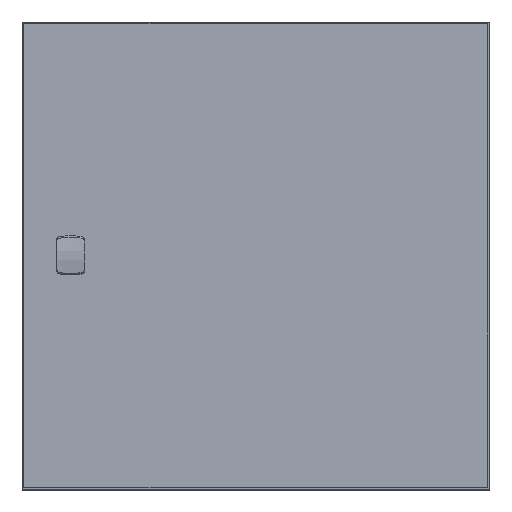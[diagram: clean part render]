
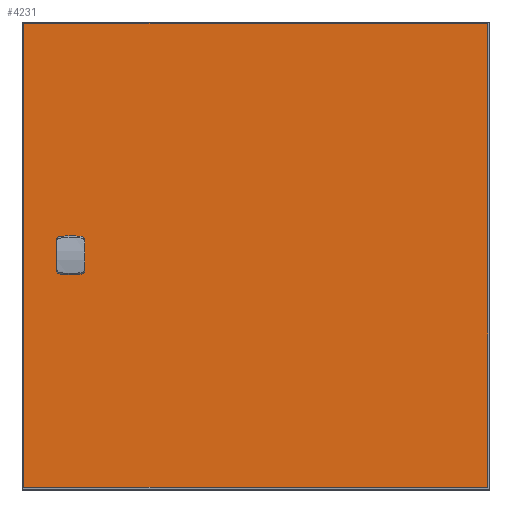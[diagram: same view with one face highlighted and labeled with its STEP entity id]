
A CAD part, top view. The second image highlights one B-rep face of the part: STEP entity #4231.
In plain terms, the highlighted planar face has unit normal (0, 0, 1).
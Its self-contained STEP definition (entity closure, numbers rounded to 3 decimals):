
#224=CIRCLE('',#5045,11.3);
#225=CIRCLE('',#5046,11.3);
#226=CIRCLE('',#5047,1.25);
#227=CIRCLE('',#5048,11.3);
#228=CIRCLE('',#5049,11.3);
#229=CIRCLE('',#5050,1.25);
#688=ORIENTED_EDGE('',*,*,#1656,.F.);
#689=ORIENTED_EDGE('',*,*,#1657,.F.);
#690=ORIENTED_EDGE('',*,*,#1658,.F.);
#691=ORIENTED_EDGE('',*,*,#1659,.F.);
#692=ORIENTED_EDGE('',*,*,#1660,.F.);
#693=ORIENTED_EDGE('',*,*,#1661,.F.);
#694=ORIENTED_EDGE('',*,*,#1662,.F.);
#695=ORIENTED_EDGE('',*,*,#1663,.F.);
#696=ORIENTED_EDGE('',*,*,#1664,.F.);
#697=ORIENTED_EDGE('',*,*,#1665,.F.);
#698=ORIENTED_EDGE('',*,*,#1666,.F.);
#699=ORIENTED_EDGE('',*,*,#1667,.F.);
#700=ORIENTED_EDGE('',*,*,#1668,.F.);
#701=ORIENTED_EDGE('',*,*,#1669,.F.);
#702=ORIENTED_EDGE('',*,*,#1670,.F.);
#703=ORIENTED_EDGE('',*,*,#1671,.F.);
#704=ORIENTED_EDGE('',*,*,#1672,.T.);
#705=ORIENTED_EDGE('',*,*,#1673,.F.);
#706=ORIENTED_EDGE('',*,*,#1674,.F.);
#707=ORIENTED_EDGE('',*,*,#1654,.T.);
#1654=EDGE_CURVE('',#2176,#2175,#2562,.T.);
#1656=EDGE_CURVE('',#2177,#2178,#224,.T.);
#1657=EDGE_CURVE('',#2179,#2177,#2564,.T.);
#1658=EDGE_CURVE('',#2180,#2179,#225,.T.);
#1659=EDGE_CURVE('',#2181,#2180,#2565,.T.);
#1660=EDGE_CURVE('',#2182,#2181,#2566,.T.);
#1661=EDGE_CURVE('',#2183,#2182,#226,.T.);
#1662=EDGE_CURVE('',#2184,#2183,#2567,.T.);
#1663=EDGE_CURVE('',#2185,#2184,#2568,.T.);
#1664=EDGE_CURVE('',#2186,#2185,#227,.T.);
#1665=EDGE_CURVE('',#2187,#2186,#2569,.T.);
#1666=EDGE_CURVE('',#2188,#2187,#228,.T.);
#1667=EDGE_CURVE('',#2189,#2188,#2570,.T.);
#1668=EDGE_CURVE('',#2190,#2189,#2571,.T.);
#1669=EDGE_CURVE('',#2191,#2190,#229,.T.);
#1670=EDGE_CURVE('',#2192,#2191,#2572,.T.);
#1671=EDGE_CURVE('',#2178,#2192,#2573,.T.);
#1672=EDGE_CURVE('',#2175,#2193,#2574,.T.);
#1673=EDGE_CURVE('',#2194,#2193,#2575,.T.);
#1674=EDGE_CURVE('',#2176,#2194,#2576,.T.);
#2175=VERTEX_POINT('',#7039);
#2176=VERTEX_POINT('',#7041);
#2177=VERTEX_POINT('',#7045);
#2178=VERTEX_POINT('',#7046);
#2179=VERTEX_POINT('',#7048);
#2180=VERTEX_POINT('',#7050);
#2181=VERTEX_POINT('',#7052);
#2182=VERTEX_POINT('',#7054);
#2183=VERTEX_POINT('',#7056);
#2184=VERTEX_POINT('',#7058);
#2185=VERTEX_POINT('',#7060);
#2186=VERTEX_POINT('',#7062);
#2187=VERTEX_POINT('',#7064);
#2188=VERTEX_POINT('',#7066);
#2189=VERTEX_POINT('',#7068);
#2190=VERTEX_POINT('',#7070);
#2191=VERTEX_POINT('',#7072);
#2192=VERTEX_POINT('',#7074);
#2193=VERTEX_POINT('',#7077);
#2194=VERTEX_POINT('',#7079);
#2562=LINE('',#7040,#2951);
#2564=LINE('',#7047,#2953);
#2565=LINE('',#7051,#2954);
#2566=LINE('',#7053,#2955);
#2567=LINE('',#7057,#2956);
#2568=LINE('',#7059,#2957);
#2569=LINE('',#7063,#2958);
#2570=LINE('',#7067,#2959);
#2571=LINE('',#7069,#2960);
#2572=LINE('',#7073,#2961);
#2573=LINE('',#7075,#2962);
#2574=LINE('',#7076,#2963);
#2575=LINE('',#7078,#2964);
#2576=LINE('',#7080,#2965);
#2951=VECTOR('',#5786,1000.);
#2953=VECTOR('',#5792,1000.);
#2954=VECTOR('',#5795,1000.);
#2955=VECTOR('',#5796,1000.);
#2956=VECTOR('',#5799,1000.);
#2957=VECTOR('',#5800,1000.);
#2958=VECTOR('',#5803,1000.);
#2959=VECTOR('',#5806,1000.);
#2960=VECTOR('',#5807,1000.);
#2961=VECTOR('',#5810,1000.);
#2962=VECTOR('',#5811,1000.);
#2963=VECTOR('',#5812,1000.);
#2964=VECTOR('',#5813,1000.);
#2965=VECTOR('',#5814,1000.);
#3357=EDGE_LOOP('',(#688,#689,#690,#691,#692,#693,#694,#695,#696,#697,#698,
#699,#700,#701,#702,#703));
#3358=EDGE_LOOP('',(#704,#705,#706,#707));
#3730=FACE_BOUND('',#3357,.T.);
#3731=FACE_BOUND('',#3358,.T.);
#4018=PLANE('',#5044);
#4231=ADVANCED_FACE('',(#3730,#3731),#4018,.F.);
#5044=AXIS2_PLACEMENT_3D('',#7043,#5788,#5789);
#5045=AXIS2_PLACEMENT_3D('',#7044,#5790,#5791);
#5046=AXIS2_PLACEMENT_3D('',#7049,#5793,#5794);
#5047=AXIS2_PLACEMENT_3D('',#7055,#5797,#5798);
#5048=AXIS2_PLACEMENT_3D('',#7061,#5801,#5802);
#5049=AXIS2_PLACEMENT_3D('',#7065,#5804,#5805);
#5050=AXIS2_PLACEMENT_3D('',#7071,#5808,#5809);
#5786=DIRECTION('',(0.,-1.,0.));
#5788=DIRECTION('',(0.,0.,-1.));
#5789=DIRECTION('',(-1.,0.,0.));
#5790=DIRECTION('',(0.,0.,1.));
#5791=DIRECTION('',(1.,0.,0.));
#5792=DIRECTION('',(0.,-1.,0.));
#5793=DIRECTION('',(0.,0.,1.));
#5794=DIRECTION('',(1.,0.,0.));
#5795=DIRECTION('',(-1.,0.,0.));
#5796=DIRECTION('',(0.,-1.,0.));
#5797=DIRECTION('',(0.,0.,1.));
#5798=DIRECTION('',(1.,0.,0.));
#5799=DIRECTION('',(0.,1.,0.));
#5800=DIRECTION('',(-1.,0.,0.));
#5801=DIRECTION('',(0.,0.,1.));
#5802=DIRECTION('',(1.,0.,0.));
#5803=DIRECTION('',(0.,1.,0.));
#5804=DIRECTION('',(0.,0.,1.));
#5805=DIRECTION('',(1.,0.,0.));
#5806=DIRECTION('',(1.,0.,0.));
#5807=DIRECTION('',(0.,1.,0.));
#5808=DIRECTION('',(0.,0.,1.));
#5809=DIRECTION('',(1.,0.,0.));
#5810=DIRECTION('',(0.,-1.,0.));
#5811=DIRECTION('',(1.,0.,0.));
#5812=DIRECTION('',(1.,0.,0.));
#5813=DIRECTION('',(0.,-1.,0.));
#5814=DIRECTION('',(1.,0.,0.));
#7039=CARTESIAN_POINT('',(-248.,-248.,0.));
#7040=CARTESIAN_POINT('',(-248.,248.,0.));
#7041=CARTESIAN_POINT('',(-248.,248.,0.));
#7043=CARTESIAN_POINT('',(-248.,248.,0.));
#7044=CARTESIAN_POINT('',(-197.8,0.,0.));
#7045=CARTESIAN_POINT('',(-207.95,-4.967,0.));
#7046=CARTESIAN_POINT('',(-202.767,-10.15,0.));
#7047=CARTESIAN_POINT('',(-207.95,4.967,0.));
#7048=CARTESIAN_POINT('',(-207.95,4.967,0.));
#7049=CARTESIAN_POINT('',(-197.8,0.,0.));
#7050=CARTESIAN_POINT('',(-202.767,10.15,0.));
#7051=CARTESIAN_POINT('',(-199.05,10.15,0.));
#7052=CARTESIAN_POINT('',(-199.05,10.15,0.));
#7053=CARTESIAN_POINT('',(-199.05,10.75,0.));
#7054=CARTESIAN_POINT('',(-199.05,10.75,0.));
#7055=CARTESIAN_POINT('',(-197.8,10.75,0.));
#7056=CARTESIAN_POINT('',(-196.55,10.75,0.));
#7057=CARTESIAN_POINT('',(-196.55,10.15,0.));
#7058=CARTESIAN_POINT('',(-196.55,10.15,0.));
#7059=CARTESIAN_POINT('',(-192.833,10.15,0.));
#7060=CARTESIAN_POINT('',(-192.833,10.15,0.));
#7061=CARTESIAN_POINT('',(-197.8,0.,0.));
#7062=CARTESIAN_POINT('',(-187.65,4.967,0.));
#7063=CARTESIAN_POINT('',(-187.65,-4.967,0.));
#7064=CARTESIAN_POINT('',(-187.65,-4.967,0.));
#7065=CARTESIAN_POINT('',(-197.8,0.,0.));
#7066=CARTESIAN_POINT('',(-192.833,-10.15,0.));
#7067=CARTESIAN_POINT('',(-196.55,-10.15,0.));
#7068=CARTESIAN_POINT('',(-196.55,-10.15,0.));
#7069=CARTESIAN_POINT('',(-196.55,-10.75,0.));
#7070=CARTESIAN_POINT('',(-196.55,-10.75,0.));
#7071=CARTESIAN_POINT('',(-197.8,-10.75,0.));
#7072=CARTESIAN_POINT('',(-199.05,-10.75,0.));
#7073=CARTESIAN_POINT('',(-199.05,-10.15,0.));
#7074=CARTESIAN_POINT('',(-199.05,-10.15,0.));
#7075=CARTESIAN_POINT('',(-202.767,-10.15,0.));
#7076=CARTESIAN_POINT('',(-248.,-248.,0.));
#7077=CARTESIAN_POINT('',(248.,-248.,0.));
#7078=CARTESIAN_POINT('',(248.,248.,0.));
#7079=CARTESIAN_POINT('',(248.,248.,0.));
#7080=CARTESIAN_POINT('',(-248.,248.,0.));
